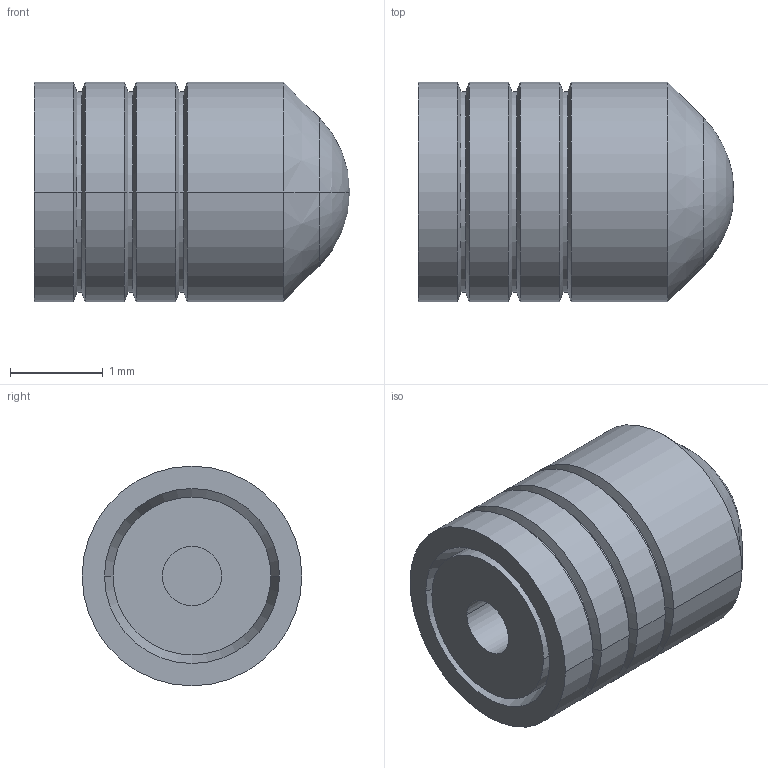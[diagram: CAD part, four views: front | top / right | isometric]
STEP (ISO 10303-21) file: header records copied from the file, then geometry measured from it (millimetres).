
FILE_DESCRIPTION(('CoCreate Modeling STEP Export'),'2;1');
FILE_NAME('PLHA0931241A.stp','2012-01-10T13:13:01',(''),(''),'CoCreate Modeling STEP processor for AP214 (Solid Model)','CoCreate Modeling 17.0 01-Apr-2010 (C) Parametric Technology GmbH','');
FILE_SCHEMA(('AUTOMOTIVE_DESIGN { 1 0 10303 214 1 1 1 1 }'));
Length unit declared in the file: millimetre
Products named in the file (1): PLHA0931241A
Bounding box: 3.4 x 2.37 x 2.37 mm (x, y, z)
Volume: 12.5 mm3; surface area: 39.6 mm2
Topology: 1 solids, 1 shells, 39 faces, 83 edges, 46 vertices
Faces by surface type: cylinder 18, cone 16, plane 3, sphere 2
Entity records: 896 total; most frequent: ORIENTED_EDGE 162, CARTESIAN_POINT 123, DIRECTION 120, EDGE_CURVE 81, VERTEX_POINT 46, AXIS2_PLACEMENT_3D 43, EDGE_LOOP 41, FACE_OUTER_BOUND 39
